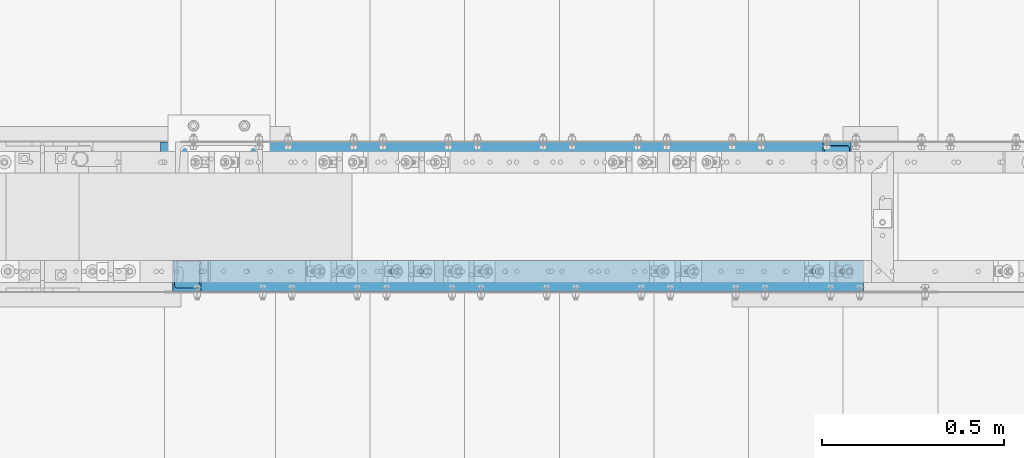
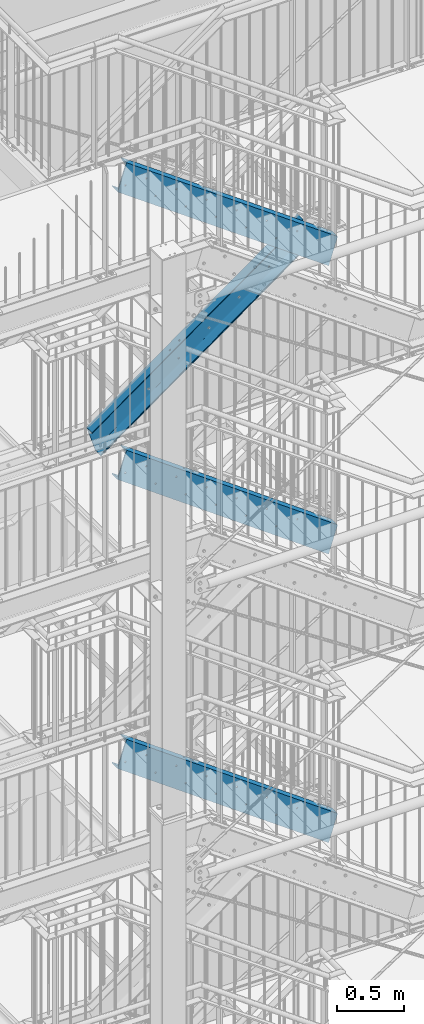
# One storey, part 120 of 825: 4 members, 62 openings.
"""IFC2X3 building model written with IfcOpenShell, lengths in millimetres."""

from ifc_helpers import new_model, entity, si_unit, converted_unit, frame, frame_2d, origin, origin_with_axes, origin_2d_with_axis, place, context, project, spatial, circle, u_section, extrude, clip, halfspace, material, element, save


model = new_model("IFC2X3")

# Units and contexts
model_context = context("Model", 3, precision=1e-09, world=origin_with_axes())
ifc_project = project(units=[si_unit("LENGTHUNIT", "METRE", prefix="MILLI"), si_unit("AREAUNIT", "SQUARE_METRE"), si_unit("VOLUMEUNIT", "CUBIC_METRE"), converted_unit("PLANEANGLEUNIT", "DEGREE", entity("IfcPlaneAngleMeasure", 0.01745329), si_unit("PLANEANGLEUNIT", "RADIAN"), dimensions=[0, 0, 0, 0, 0, 0, 0])], contexts=[model_context])

# Site, building, storey
site_placement = place(None, origin_with_axes())
site = spatial("IfcSite", under=ifc_project, at=site_placement, Name="Cnopf'sche Kinderklinik", CompositionType="ELEMENT")
building_placement = place(site_placement, origin_with_axes())
building = spatial("IfcBuilding", under=site, at=building_placement, Name="Struktur 1", CompositionType="ELEMENT")
storey_placement = place(building_placement, origin_with_axes())
storey = spatial("IfcBuildingStorey", under=building, at=storey_placement, Name="Default Storey", CompositionType="ELEMENT", Elevation=0.0)

# Member, openings
ifc_material = material(Name="S235JR")
member_1_placement = place(None, frame((5040.349232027, 6124.436971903, 14964.808313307), z_axis=(-0.811618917, 0.0, -0.584187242), x_axis=(0.0, -1.0, 0.0)))
member_1 = element("IfcMember", 1, at=member_1_placement, inside=storey, material=ifc_material, Name="Stringer#2", ObjectType="Stringer#2", context=model_context, shape_type="Clipping", body=[
    clip(clip(extrude(u_section(Depth=240.0, FlangeWidth=85.0, WebThickness=9.5, FlangeThickness=13.0, FilletRadius=13.0, EdgeRadius=6.5, FlangeSlope=4.574, at=frame_2d((20.2, 0.0))), origin(), (0.0, 0.0, -1.0), 2762.119261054), halfspace(frame((6124.436971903, -12802.606591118, 1664.839205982), z_axis=(0.0, 0.306904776, 0.951740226), x_axis=(1.0, 0.0, 0.0)), True)), halfspace(frame((6124.436971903, -12147.607204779, 3696.053161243), z_axis=(0.0, -0.306904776, -0.951740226), x_axis=(-1.0, 0.0, 0.0)), True)),
])
opening_1_placement = place(member_1_placement, frame((-22.8, -50.239297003, -1752.072290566), z_axis=(1.0, 0.0, 0.0), x_axis=(0.0, -0.584187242, -0.811618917)))
element("IfcOpeningElement", 2, at=opening_1_placement, cuts=member_1, ObjectType="Opening", context=model_context, shape_type="SweptSolid", body=[
    extrude(circle(Radius=7.001, at=origin_2d_with_axis()), origin(), (0.0, 0.0, 1.0), 10.5),
])
opening_2_placement = place(member_1_placement, frame((-22.8, 54.914406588, -965.286109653), z_axis=(1.0, 0.0, 0.0), x_axis=(0.0, -0.584187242, -0.811618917)))
element("IfcOpeningElement", 3, at=opening_2_placement, cuts=member_1, ObjectType="Opening", context=model_context, shape_type="SweptSolid", body=[
    extrude(circle(Radius=7.001, at=origin_2d_with_axis()), origin(), (0.0, 0.0, 1.0), 10.5),
])
opening_3_placement = place(member_1_placement, frame((-22.8, 54.914406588, -1605.980885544), z_axis=(1.0, 0.0, 0.0), x_axis=(0.0, -0.584187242, -0.811618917)))
element("IfcOpeningElement", 4, at=opening_3_placement, cuts=member_1, ObjectType="Opening", context=model_context, shape_type="SweptSolid", body=[
    extrude(circle(Radius=7.001, at=origin_2d_with_axis()), origin(), (0.0, 0.0, 1.0), 10.5),
])
opening_4_placement = place(member_1_placement, frame((-22.8, -50.239297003, -1431.72490262), z_axis=(1.0, 0.0, 0.0), x_axis=(0.0, -0.584187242, -0.811618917)))
element("IfcOpeningElement", 5, at=opening_4_placement, cuts=member_1, ObjectType="Opening", context=model_context, shape_type="SweptSolid", body=[
    extrude(circle(Radius=7.001, at=origin_2d_with_axis()), origin(), (0.0, 0.0, 1.0), 10.5),
])
opening_5_placement = place(member_1_placement, frame((-22.8, -50.239297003, -2392.767066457), z_axis=(1.0, 0.0, 0.0), x_axis=(0.0, -0.584187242, -0.811618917)))
element("IfcOpeningElement", 6, at=opening_5_placement, cuts=member_1, ObjectType="Opening", context=model_context, shape_type="SweptSolid", body=[
    extrude(circle(Radius=7.001, at=origin_2d_with_axis()), origin(), (0.0, 0.0, 1.0), 10.5),
])
opening_6_placement = place(member_1_placement, frame((-22.8, 54.914406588, -1926.32827349), z_axis=(1.0, 0.0, 0.0), x_axis=(0.0, -0.584187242, -0.811618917)))
element("IfcOpeningElement", 7, at=opening_6_placement, cuts=member_1, ObjectType="Opening", context=model_context, shape_type="SweptSolid", body=[
    extrude(circle(Radius=7.001, at=origin_2d_with_axis()), origin(), (0.0, 0.0, 1.0), 10.5),
])
opening_7_placement = place(member_1_placement, frame((-22.8, -50.239297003, -791.030126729), z_axis=(1.0, 0.0, 0.0), x_axis=(0.0, -0.584187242, -0.811618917)))
element("IfcOpeningElement", 8, at=opening_7_placement, cuts=member_1, ObjectType="Opening", context=model_context, shape_type="SweptSolid", body=[
    extrude(circle(Radius=7.001, at=origin_2d_with_axis()), origin(), (0.0, 0.0, 1.0), 10.5),
])
opening_8_placement = place(member_1_placement, frame((-22.8, -50.239297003, -1111.377514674), z_axis=(1.0, 0.0, 0.0), x_axis=(0.0, -0.584187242, -0.811618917)))
element("IfcOpeningElement", 9, at=opening_8_placement, cuts=member_1, ObjectType="Opening", context=model_context, shape_type="SweptSolid", body=[
    extrude(circle(Radius=7.001, at=origin_2d_with_axis()), origin(), (0.0, 0.0, 1.0), 10.5),
])
opening_9_placement = place(member_1_placement, frame((-22.8, -50.239297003, -2072.419678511), z_axis=(1.0, 0.0, 0.0), x_axis=(0.0, -0.584187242, -0.811618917)))
element("IfcOpeningElement", 10, at=opening_9_placement, cuts=member_1, ObjectType="Opening", context=model_context, shape_type="SweptSolid", body=[
    extrude(circle(Radius=7.001, at=origin_2d_with_axis()), origin(), (0.0, 0.0, 1.0), 10.5),
])
opening_10_placement = place(member_1_placement, frame((-22.8, 54.914406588, -644.938721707), z_axis=(1.0, 0.0, 0.0), x_axis=(0.0, -0.584187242, -0.811618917)))
element("IfcOpeningElement", 11, at=opening_10_placement, cuts=member_1, ObjectType="Opening", context=model_context, shape_type="SweptSolid", body=[
    extrude(circle(Radius=7.001, at=origin_2d_with_axis()), origin(), (0.0, 0.0, 1.0), 10.5),
])
opening_11_placement = place(member_1_placement, frame((-22.8, 54.914406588, -1285.633497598), z_axis=(1.0, 0.0, 0.0), x_axis=(0.0, -0.584187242, -0.811618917)))
element("IfcOpeningElement", 12, at=opening_11_placement, cuts=member_1, ObjectType="Opening", context=model_context, shape_type="SweptSolid", body=[
    extrude(circle(Radius=7.001, at=origin_2d_with_axis()), origin(), (0.0, 0.0, 1.0), 10.5),
])
opening_12_placement = place(member_1_placement, frame((-22.8, 54.914406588, -2246.675661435), z_axis=(1.0, 0.0, 0.0), x_axis=(0.0, -0.584187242, -0.811618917)))
element("IfcOpeningElement", 13, at=opening_12_placement, cuts=member_1, ObjectType="Opening", context=model_context, shape_type="SweptSolid", body=[
    extrude(circle(Radius=7.001, at=origin_2d_with_axis()), origin(), (0.0, 0.0, 1.0), 10.5),
])
opening_13_placement = place(member_1_placement, frame((32.7, 120.5, -1202.001427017), z_axis=(0.0, 1.0, 0.0), x_axis=(-1.0, 0.0, 0.0)))
element("IfcOpeningElement", 14, at=opening_13_placement, cuts=member_1, ObjectType="Opening", context=model_context, shape_type="SweptSolid", body=[
    extrude(circle(Radius=7.001, at=frame_2d((0.0, -7.001), x_axis=(1.0, 0.0))), origin(), (0.0, 0.0, -1.0), 14.0),
])
opening_14_placement = place(member_1_placement, frame((32.7, 120.5, -1102.001427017), z_axis=(0.0, 1.0, 0.0), x_axis=(-1.0, 0.0, 0.0)))
element("IfcOpeningElement", 15, at=opening_14_placement, cuts=member_1, ObjectType="Opening", context=model_context, shape_type="SweptSolid", body=[
    extrude(circle(Radius=7.001, at=frame_2d((0.0, -7.001), x_axis=(1.0, 0.0))), origin(), (0.0, 0.0, -1.0), 14.0),
])

member_2_placement = place(None, frame((7252.657044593, 5759.036971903, 11016.099256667), z_axis=(0.810878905, 0.0, -0.585213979), x_axis=(0.0, 1.0, 0.0)))
member_2 = element("IfcMember", 16, at=member_2_placement, inside=storey, material=ifc_material, Name="Stringer#2", ObjectType="Stringer#2", context=model_context, shape_type="Clipping", body=[
    clip(clip(extrude(u_section(Depth=240.0, FlangeWidth=85.0, WebThickness=9.5, FlangeThickness=13.0, FilletRadius=13.0, EdgeRadius=6.5, FlangeSlope=4.574, at=frame_2d((20.2, 0.0))), origin(), (0.0, 0.0, -1.0), 2764.271886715), halfspace(frame((-5759.036971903, -12161.289703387, 3708.993877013), z_axis=(0.0, -0.307506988, -0.951545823), x_axis=(-1.0, 0.0, 0.0)), True)), halfspace(frame((-5759.036971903, -12818.039088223, 1676.756695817), z_axis=(0.0, 0.307506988, 0.951545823), x_axis=(1.0, 0.0, 0.0)), True)),
])
opening_15_placement = place(member_2_placement, frame((-22.8, -50.419345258, -2073.598813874), z_axis=(1.0, 0.0, 0.0), x_axis=(0.0, -0.585213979, -0.810878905)))
element("IfcOpeningElement", 17, at=opening_15_placement, cuts=member_2, ObjectType="Opening", context=model_context, shape_type="SweptSolid", body=[
    extrude(circle(Radius=7.001, at=origin_2d_with_axis()), origin(), (0.0, 0.0, 1.0), 10.5),
])
opening_16_placement = place(member_2_placement, frame((-22.8, 54.919170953, -645.081657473), z_axis=(1.0, 0.0, 0.0), x_axis=(0.0, -0.585213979, -0.810878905)))
element("IfcOpeningElement", 18, at=opening_16_placement, cuts=member_2, ObjectType="Opening", context=model_context, shape_type="SweptSolid", body=[
    extrude(circle(Radius=7.001, at=origin_2d_with_axis()), origin(), (0.0, 0.0, 1.0), 10.5),
])
opening_17_placement = place(member_2_placement, frame((-22.8, 54.919170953, -1286.361134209), z_axis=(1.0, 0.0, 0.0), x_axis=(0.0, -0.585213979, -0.810878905)))
element("IfcOpeningElement", 19, at=opening_17_placement, cuts=member_2, ObjectType="Opening", context=model_context, shape_type="SweptSolid", body=[
    extrude(circle(Radius=7.001, at=origin_2d_with_axis()), origin(), (0.0, 0.0, 1.0), 10.5),
])
opening_18_placement = place(member_2_placement, frame((-22.8, 54.919170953, -965.721395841), z_axis=(1.0, 0.0, 0.0), x_axis=(0.0, -0.585213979, -0.810878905)))
element("IfcOpeningElement", 20, at=opening_18_placement, cuts=member_2, ObjectType="Opening", context=model_context, shape_type="SweptSolid", body=[
    extrude(circle(Radius=7.001, at=origin_2d_with_axis()), origin(), (0.0, 0.0, 1.0), 10.5),
])
opening_19_placement = place(member_2_placement, frame((-22.8, -50.419345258, -1752.959075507), z_axis=(1.0, 0.0, 0.0), x_axis=(0.0, -0.585213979, -0.810878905)))
element("IfcOpeningElement", 21, at=opening_19_placement, cuts=member_2, ObjectType="Opening", context=model_context, shape_type="SweptSolid", body=[
    extrude(circle(Radius=7.001, at=origin_2d_with_axis()), origin(), (0.0, 0.0, 1.0), 10.5),
])
opening_20_placement = place(member_2_placement, frame((-22.8, 54.919170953, -1927.640610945), z_axis=(1.0, 0.0, 0.0), x_axis=(0.0, -0.585213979, -0.810878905)))
element("IfcOpeningElement", 22, at=opening_20_placement, cuts=member_2, ObjectType="Opening", context=model_context, shape_type="SweptSolid", body=[
    extrude(circle(Radius=7.001, at=origin_2d_with_axis()), origin(), (0.0, 0.0, 1.0), 10.5),
])
opening_21_placement = place(member_2_placement, frame((-22.8, -50.419345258, -1111.679598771), z_axis=(1.0, 0.0, 0.0), x_axis=(0.0, -0.585213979, -0.810878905)))
element("IfcOpeningElement", 23, at=opening_21_placement, cuts=member_2, ObjectType="Opening", context=model_context, shape_type="SweptSolid", body=[
    extrude(circle(Radius=7.001, at=origin_2d_with_axis()), origin(), (0.0, 0.0, 1.0), 10.5),
])
opening_22_placement = place(member_2_placement, frame((-22.8, -50.419345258, -791.039860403), z_axis=(1.0, 0.0, 0.0), x_axis=(0.0, -0.585213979, -0.810878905)))
element("IfcOpeningElement", 24, at=opening_22_placement, cuts=member_2, ObjectType="Opening", context=model_context, shape_type="SweptSolid", body=[
    extrude(circle(Radius=7.001, at=origin_2d_with_axis()), origin(), (0.0, 0.0, 1.0), 10.5),
])
opening_23_placement = place(member_2_placement, frame((-22.8, 54.919170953, -2248.280349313), z_axis=(1.0, 0.0, 0.0), x_axis=(0.0, -0.585213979, -0.810878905)))
element("IfcOpeningElement", 25, at=opening_23_placement, cuts=member_2, ObjectType="Opening", context=model_context, shape_type="SweptSolid", body=[
    extrude(circle(Radius=7.001, at=origin_2d_with_axis()), origin(), (0.0, 0.0, 1.0), 10.5),
])
opening_24_placement = place(member_2_placement, frame((-22.8, 54.919170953, -1607.000872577), z_axis=(1.0, 0.0, 0.0), x_axis=(0.0, -0.585213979, -0.810878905)))
element("IfcOpeningElement", 26, at=opening_24_placement, cuts=member_2, ObjectType="Opening", context=model_context, shape_type="SweptSolid", body=[
    extrude(circle(Radius=7.001, at=origin_2d_with_axis()), origin(), (0.0, 0.0, 1.0), 10.5),
])
opening_25_placement = place(member_2_placement, frame((-22.8, -50.419345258, -1432.319337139), z_axis=(1.0, 0.0, 0.0), x_axis=(0.0, -0.585213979, -0.810878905)))
element("IfcOpeningElement", 27, at=opening_25_placement, cuts=member_2, ObjectType="Opening", context=model_context, shape_type="SweptSolid", body=[
    extrude(circle(Radius=7.001, at=origin_2d_with_axis()), origin(), (0.0, 0.0, 1.0), 10.5),
])
opening_26_placement = place(member_2_placement, frame((-22.8, -50.419345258, -2394.238552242), z_axis=(1.0, 0.0, 0.0), x_axis=(0.0, -0.585213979, -0.810878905)))
element("IfcOpeningElement", 28, at=opening_26_placement, cuts=member_2, ObjectType="Opening", context=model_context, shape_type="SweptSolid", body=[
    extrude(circle(Radius=7.001, at=origin_2d_with_axis()), origin(), (0.0, 0.0, 1.0), 10.5),
])
opening_27_placement = place(member_2_placement, frame((32.7, 120.5, -422.66807384), z_axis=(0.0, 1.0, 0.0), x_axis=(-1.0, 0.0, 0.0)))
element("IfcOpeningElement", 29, at=opening_27_placement, cuts=member_2, ObjectType="Opening", context=model_context, shape_type="SweptSolid", body=[
    extrude(circle(Radius=7.001, at=frame_2d((0.0, -7.001), x_axis=(1.0, 0.0))), origin(), (0.0, 0.0, -1.0), 14.0),
])
opening_28_placement = place(member_2_placement, frame((32.7, 120.5, -322.66807384), z_axis=(0.0, 1.0, 0.0), x_axis=(-1.0, 0.0, 0.0)))
element("IfcOpeningElement", 30, at=opening_28_placement, cuts=member_2, ObjectType="Opening", context=model_context, shape_type="SweptSolid", body=[
    extrude(circle(Radius=7.001, at=frame_2d((0.0, -7.001), x_axis=(1.0, 0.0))), origin(), (0.0, 0.0, -1.0), 14.0),
])
opening_29_placement = place(member_2_placement, frame((32.7, 120.5, -1850.132141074), z_axis=(0.0, 1.0, 0.0), x_axis=(-1.0, 0.0, 0.0)))
element("IfcOpeningElement", 31, at=opening_29_placement, cuts=member_2, ObjectType="Opening", context=model_context, shape_type="SweptSolid", body=[
    extrude(circle(Radius=7.001, at=frame_2d((0.0, -7.001), x_axis=(1.0, 0.0))), origin(), (0.0, 0.0, -1.0), 14.000000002),
])
opening_30_placement = place(member_2_placement, frame((32.7, 120.500000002, -1750.132141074), z_axis=(0.0, 1.0, 0.0), x_axis=(-1.0, 0.0, 0.0)))
element("IfcOpeningElement", 32, at=opening_30_placement, cuts=member_2, ObjectType="Opening", context=model_context, shape_type="SweptSolid", body=[
    extrude(circle(Radius=7.001, at=frame_2d((0.0, -7.001), x_axis=(1.0, 0.0))), origin(), (0.0, 0.0, -1.0), 14.000000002),
])

member_3_placement = place(None, frame((7252.177764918, 5759.036971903, 13646.861065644), z_axis=(0.810033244, 0.0, -0.586383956), x_axis=(0.0, 1.0, 0.0)))
member_3 = element("IfcMember", 33, at=member_3_placement, inside=storey, material=ifc_material, Name="Stringer#2", ObjectType="Stringer#2", context=model_context, shape_type="Clipping", body=[
    clip(clip(extrude(u_section(Depth=240.0, FlangeWidth=85.0, WebThickness=9.5, FlangeThickness=13.0, FilletRadius=13.0, EdgeRadius=6.5, FlangeSlope=4.574, at=frame_2d((20.2, 0.0))), origin(), (0.0, 0.0, -1.0), 2766.736495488), halfspace(frame((-5759.036971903, -14541.73622123, 4489.902696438), z_axis=(0.0, -0.308193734, -0.951323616), x_axis=(-1.0, 0.0, 0.0)), True)), halfspace(frame((-5759.036971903, -15200.485604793, 2456.493916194), z_axis=(0.0, 0.308193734, 0.951323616), x_axis=(1.0, 0.0, 0.0)), True)),
])
opening_31_placement = place(member_3_placement, frame((-22.8, -50.624378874, -2395.925170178), z_axis=(1.0, 0.0, 0.0), x_axis=(0.0, -0.586383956, -0.810033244)))
element("IfcOpeningElement", 34, at=opening_31_placement, cuts=member_3, ObjectType="Opening", context=model_context, shape_type="SweptSolid", body=[
    extrude(circle(Radius=7.001, at=origin_2d_with_axis()), origin(), (0.0, 0.0, 1.0), 10.5),
])
opening_32_placement = place(member_3_placement, frame((-22.8, -50.624378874, -1433.001727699), z_axis=(1.0, 0.0, 0.0), x_axis=(0.0, -0.586383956, -0.810033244)))
element("IfcOpeningElement", 35, at=opening_32_placement, cuts=member_3, ObjectType="Opening", context=model_context, shape_type="SweptSolid", body=[
    extrude(circle(Radius=7.001, at=origin_2d_with_axis()), origin(), (0.0, 0.0, 1.0), 10.5),
])
opening_33_placement = place(member_3_placement, frame((-22.8, -50.624378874, -2074.950689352), z_axis=(1.0, 0.0, 0.0), x_axis=(0.0, -0.586383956, -0.810033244)))
element("IfcOpeningElement", 36, at=opening_33_placement, cuts=member_3, ObjectType="Opening", context=model_context, shape_type="SweptSolid", body=[
    extrude(circle(Radius=7.001, at=origin_2d_with_axis()), origin(), (0.0, 0.0, 1.0), 10.5),
])
opening_34_placement = place(member_3_placement, frame((-22.8, 54.924733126, -1608.170224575), z_axis=(1.0, 0.0, 0.0), x_axis=(0.0, -0.586383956, -0.810033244)))
element("IfcOpeningElement", 37, at=opening_34_placement, cuts=member_3, ObjectType="Opening", context=model_context, shape_type="SweptSolid", body=[
    extrude(circle(Radius=7.001, at=origin_2d_with_axis()), origin(), (0.0, 0.0, 1.0), 10.5),
])
opening_35_placement = place(member_3_placement, frame((-22.8, 54.924733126, -1929.144705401), z_axis=(1.0, 0.0, 0.0), x_axis=(0.0, -0.586383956, -0.810033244)))
element("IfcOpeningElement", 38, at=opening_35_placement, cuts=member_3, ObjectType="Opening", context=model_context, shape_type="SweptSolid", body=[
    extrude(circle(Radius=7.001, at=origin_2d_with_axis()), origin(), (0.0, 0.0, 1.0), 10.5),
])
opening_36_placement = place(member_3_placement, frame((-22.8, -50.624378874, -1753.976208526), z_axis=(1.0, 0.0, 0.0), x_axis=(0.0, -0.586383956, -0.810033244)))
element("IfcOpeningElement", 39, at=opening_36_placement, cuts=member_3, ObjectType="Opening", context=model_context, shape_type="SweptSolid", body=[
    extrude(circle(Radius=7.001, at=origin_2d_with_axis()), origin(), (0.0, 0.0, 1.0), 10.5),
])
opening_37_placement = place(member_3_placement, frame((-22.8, 54.924733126, -966.221262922), z_axis=(1.0, 0.0, 0.0), x_axis=(0.0, -0.586383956, -0.810033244)))
element("IfcOpeningElement", 40, at=opening_37_placement, cuts=member_3, ObjectType="Opening", context=model_context, shape_type="SweptSolid", body=[
    extrude(circle(Radius=7.001, at=origin_2d_with_axis()), origin(), (0.0, 0.0, 1.0), 10.5),
])
opening_38_placement = place(member_3_placement, frame((-22.8, 54.924733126, -1287.195743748), z_axis=(1.0, 0.0, 0.0), x_axis=(0.0, -0.586383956, -0.810033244)))
element("IfcOpeningElement", 41, at=opening_38_placement, cuts=member_3, ObjectType="Opening", context=model_context, shape_type="SweptSolid", body=[
    extrude(circle(Radius=7.001, at=origin_2d_with_axis()), origin(), (0.0, 0.0, 1.0), 10.5),
])
opening_39_placement = place(member_3_placement, frame((-22.8, 54.924733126, -2250.119186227), z_axis=(1.0, 0.0, 0.0), x_axis=(0.0, -0.586383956, -0.810033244)))
element("IfcOpeningElement", 42, at=opening_39_placement, cuts=member_3, ObjectType="Opening", context=model_context, shape_type="SweptSolid", body=[
    extrude(circle(Radius=7.001, at=origin_2d_with_axis()), origin(), (0.0, 0.0, 1.0), 10.5),
])
opening_40_placement = place(member_3_placement, frame((-22.8, -50.624378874, -791.052766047), z_axis=(1.0, 0.0, 0.0), x_axis=(0.0, -0.586383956, -0.810033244)))
element("IfcOpeningElement", 43, at=opening_40_placement, cuts=member_3, ObjectType="Opening", context=model_context, shape_type="SweptSolid", body=[
    extrude(circle(Radius=7.001, at=origin_2d_with_axis()), origin(), (0.0, 0.0, 1.0), 10.5),
])
opening_41_placement = place(member_3_placement, frame((-22.8, -50.624378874, -1112.027246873), z_axis=(1.0, 0.0, 0.0), x_axis=(0.0, -0.586383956, -0.810033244)))
element("IfcOpeningElement", 44, at=opening_41_placement, cuts=member_3, ObjectType="Opening", context=model_context, shape_type="SweptSolid", body=[
    extrude(circle(Radius=7.001, at=origin_2d_with_axis()), origin(), (0.0, 0.0, 1.0), 10.5),
])
opening_42_placement = place(member_3_placement, frame((-22.8, 54.924733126, -645.246782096), z_axis=(1.0, 0.0, 0.0), x_axis=(0.0, -0.586383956, -0.810033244)))
element("IfcOpeningElement", 45, at=opening_42_placement, cuts=member_3, ObjectType="Opening", context=model_context, shape_type="SweptSolid", body=[
    extrude(circle(Radius=7.001, at=origin_2d_with_axis()), origin(), (0.0, 0.0, 1.0), 10.5),
])
opening_43_placement = place(member_3_placement, frame((32.7, 120.5, -422.640681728), z_axis=(0.0, 1.0, 0.0), x_axis=(-1.0, 0.0, 0.0)))
element("IfcOpeningElement", 46, at=opening_43_placement, cuts=member_3, ObjectType="Opening", context=model_context, shape_type="SweptSolid", body=[
    extrude(circle(Radius=7.001, at=frame_2d((0.0, -7.001), x_axis=(1.0, 0.0))), origin(), (0.0, 0.0, -1.0), 14.0),
])
opening_44_placement = place(member_3_placement, frame((32.7, 120.5, -322.640681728), z_axis=(0.0, 1.0, 0.0), x_axis=(-1.0, 0.0, 0.0)))
element("IfcOpeningElement", 47, at=opening_44_placement, cuts=member_3, ObjectType="Opening", context=model_context, shape_type="SweptSolid", body=[
    extrude(circle(Radius=7.001, at=frame_2d((0.0, -7.001), x_axis=(1.0, 0.0))), origin(), (0.0, 0.0, -1.0), 14.0),
])
opening_45_placement = place(member_3_placement, frame((32.7, 120.5, -1851.59499728), z_axis=(0.0, 1.0, 0.0), x_axis=(-1.0, 0.0, 0.0)))
element("IfcOpeningElement", 48, at=opening_45_placement, cuts=member_3, ObjectType="Opening", context=model_context, shape_type="SweptSolid", body=[
    extrude(circle(Radius=7.001, at=frame_2d((0.0, -7.001), x_axis=(1.0, 0.0))), origin(), (0.0, 0.0, -1.0), 14.0),
])
opening_46_placement = place(member_3_placement, frame((32.7, 120.5, -1751.59499728), z_axis=(0.0, 1.0, 0.0), x_axis=(-1.0, 0.0, 0.0)))
element("IfcOpeningElement", 49, at=opening_46_placement, cuts=member_3, ObjectType="Opening", context=model_context, shape_type="SweptSolid", body=[
    extrude(circle(Radius=7.001, at=frame_2d((0.0, -7.001), x_axis=(1.0, 0.0))), origin(), (0.0, 0.0, -1.0), 14.0),
])

member_4_placement = place(None, frame((7253.077573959, 5759.036971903, 16274.808313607), z_axis=(0.811618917, 0.0, -0.584187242), x_axis=(0.0, 1.0, 0.0)))
member_4 = element("IfcMember", 50, at=member_4_placement, inside=storey, material=ifc_material, Name="Stringer#2", ObjectType="Stringer#2", context=model_context, shape_type="Clipping", body=[
    clip(clip(extrude(u_section(Depth=240.0, FlangeWidth=85.0, WebThickness=9.5, FlangeThickness=13.0, FilletRadius=13.0, EdgeRadius=6.5, FlangeSlope=4.574, at=frame_2d((20.2, 0.0))), origin(), (0.0, 0.0, -1.0), 2762.119260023), halfspace(frame((-5759.036971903, -16925.049146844, 5236.620334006), z_axis=(0.0, -0.306904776, -0.951740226), x_axis=(-1.0, 0.0, 0.0)), True)), halfspace(frame((-5759.036971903, -17580.048532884, 3205.40637968), z_axis=(0.0, 0.306904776, 0.951740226), x_axis=(1.0, 0.0, 0.0)), True)),
])
opening_47_placement = place(member_4_placement, frame((-22.8, 54.914406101, -1285.633497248), z_axis=(1.0, 0.0, 0.0), x_axis=(0.0, -0.584187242, -0.811618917)))
element("IfcOpeningElement", 51, at=opening_47_placement, cuts=member_4, ObjectType="Opening", context=model_context, shape_type="SweptSolid", body=[
    extrude(circle(Radius=7.001, at=origin_2d_with_axis()), origin(), (0.0, 0.0, 1.0), 10.5),
])
opening_48_placement = place(member_4_placement, frame((-22.8, 54.914406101, -965.286109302), z_axis=(1.0, 0.0, 0.0), x_axis=(0.0, -0.584187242, -0.811618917)))
element("IfcOpeningElement", 52, at=opening_48_placement, cuts=member_4, ObjectType="Opening", context=model_context, shape_type="SweptSolid", body=[
    extrude(circle(Radius=7.001, at=origin_2d_with_axis()), origin(), (0.0, 0.0, 1.0), 10.5),
])
opening_49_placement = place(member_4_placement, frame((-22.8, -50.23929749, -1431.72490227), z_axis=(1.0, 0.0, 0.0), x_axis=(0.0, -0.584187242, -0.811618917)))
element("IfcOpeningElement", 53, at=opening_49_placement, cuts=member_4, ObjectType="Opening", context=model_context, shape_type="SweptSolid", body=[
    extrude(circle(Radius=7.001, at=origin_2d_with_axis()), origin(), (0.0, 0.0, 1.0), 10.5),
])
opening_50_placement = place(member_4_placement, frame((-22.8, 54.914406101, -2246.675661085), z_axis=(1.0, 0.0, 0.0), x_axis=(0.0, -0.584187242, -0.811618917)))
element("IfcOpeningElement", 54, at=opening_50_placement, cuts=member_4, ObjectType="Opening", context=model_context, shape_type="SweptSolid", body=[
    extrude(circle(Radius=7.001, at=origin_2d_with_axis()), origin(), (0.0, 0.0, 1.0), 10.5),
])
opening_51_placement = place(member_4_placement, frame((-22.8, -50.23929749, -2072.419678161), z_axis=(1.0, 0.0, 0.0), x_axis=(0.0, -0.584187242, -0.811618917)))
element("IfcOpeningElement", 55, at=opening_51_placement, cuts=member_4, ObjectType="Opening", context=model_context, shape_type="SweptSolid", body=[
    extrude(circle(Radius=7.001, at=origin_2d_with_axis()), origin(), (0.0, 0.0, 1.0), 10.5),
])
opening_52_placement = place(member_4_placement, frame((-22.8, 54.914406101, -1605.980885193), z_axis=(1.0, 0.0, 0.0), x_axis=(0.0, -0.584187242, -0.811618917)))
element("IfcOpeningElement", 56, at=opening_52_placement, cuts=member_4, ObjectType="Opening", context=model_context, shape_type="SweptSolid", body=[
    extrude(circle(Radius=7.001, at=origin_2d_with_axis()), origin(), (0.0, 0.0, 1.0), 10.5),
])
opening_53_placement = place(member_4_placement, frame((-22.8, -50.23929749, -791.030126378), z_axis=(1.0, 0.0, 0.0), x_axis=(0.0, -0.584187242, -0.811618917)))
element("IfcOpeningElement", 57, at=opening_53_placement, cuts=member_4, ObjectType="Opening", context=model_context, shape_type="SweptSolid", body=[
    extrude(circle(Radius=7.001, at=origin_2d_with_axis()), origin(), (0.0, 0.0, 1.0), 10.5),
])
opening_54_placement = place(member_4_placement, frame((-22.8, -50.23929749, -1111.377514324), z_axis=(1.0, 0.0, 0.0), x_axis=(0.0, -0.584187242, -0.811618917)))
element("IfcOpeningElement", 58, at=opening_54_placement, cuts=member_4, ObjectType="Opening", context=model_context, shape_type="SweptSolid", body=[
    extrude(circle(Radius=7.001, at=origin_2d_with_axis()), origin(), (0.0, 0.0, 1.0), 10.5),
])
opening_55_placement = place(member_4_placement, frame((-22.8, -50.23929749, -2392.767066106), z_axis=(1.0, 0.0, 0.0), x_axis=(0.0, -0.584187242, -0.811618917)))
element("IfcOpeningElement", 59, at=opening_55_placement, cuts=member_4, ObjectType="Opening", context=model_context, shape_type="SweptSolid", body=[
    extrude(circle(Radius=7.001, at=origin_2d_with_axis()), origin(), (0.0, 0.0, 1.0), 10.5),
])
opening_56_placement = place(member_4_placement, frame((-22.8, 54.914406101, -644.938721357), z_axis=(1.0, 0.0, 0.0), x_axis=(0.0, -0.584187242, -0.811618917)))
element("IfcOpeningElement", 60, at=opening_56_placement, cuts=member_4, ObjectType="Opening", context=model_context, shape_type="SweptSolid", body=[
    extrude(circle(Radius=7.001, at=origin_2d_with_axis()), origin(), (0.0, 0.0, 1.0), 10.5),
])
opening_57_placement = place(member_4_placement, frame((-22.8, 54.914406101, -1926.328273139), z_axis=(1.0, 0.0, 0.0), x_axis=(0.0, -0.584187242, -0.811618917)))
element("IfcOpeningElement", 61, at=opening_57_placement, cuts=member_4, ObjectType="Opening", context=model_context, shape_type="SweptSolid", body=[
    extrude(circle(Radius=7.001, at=origin_2d_with_axis()), origin(), (0.0, 0.0, 1.0), 10.5),
])
opening_58_placement = place(member_4_placement, frame((-22.8, -50.23929749, -1752.072290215), z_axis=(1.0, 0.0, 0.0), x_axis=(0.0, -0.584187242, -0.811618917)))
element("IfcOpeningElement", 62, at=opening_58_placement, cuts=member_4, ObjectType="Opening", context=model_context, shape_type="SweptSolid", body=[
    extrude(circle(Radius=7.001, at=origin_2d_with_axis()), origin(), (0.0, 0.0, 1.0), 10.5),
])
opening_59_placement = place(member_4_placement, frame((32.7, 120.5, -422.692952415), z_axis=(0.0, 1.0, 0.0), x_axis=(-1.0, 0.0, 0.0)))
element("IfcOpeningElement", 63, at=opening_59_placement, cuts=member_4, ObjectType="Opening", context=model_context, shape_type="SweptSolid", body=[
    extrude(circle(Radius=7.001, at=frame_2d((0.0, -7.001), x_axis=(1.0, 0.0))), origin(), (0.0, 0.0, -1.0), 14.0),
])
opening_60_placement = place(member_4_placement, frame((32.7, 120.5, -322.692952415), z_axis=(0.0, 1.0, 0.0), x_axis=(-1.0, 0.0, 0.0)))
element("IfcOpeningElement", 64, at=opening_60_placement, cuts=member_4, ObjectType="Opening", context=model_context, shape_type="SweptSolid", body=[
    extrude(circle(Radius=7.001, at=frame_2d((0.0, -7.001), x_axis=(1.0, 0.0))), origin(), (0.0, 0.0, -1.0), 14.0),
])
opening_61_placement = place(member_4_placement, frame((32.7, 120.5, -1644.017676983), z_axis=(0.0, 1.0, 0.0), x_axis=(-1.0, 0.0, 0.0)))
element("IfcOpeningElement", 65, at=opening_61_placement, cuts=member_4, ObjectType="Opening", context=model_context, shape_type="SweptSolid", body=[
    extrude(circle(Radius=7.001, at=frame_2d((0.0, -7.001), x_axis=(1.0, 0.0))), origin(), (0.0, 0.0, -1.0), 14.0),
])
opening_62_placement = place(member_4_placement, frame((32.7, 120.5, -1544.017676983), z_axis=(0.0, 1.0, 0.0), x_axis=(-1.0, 0.0, 0.0)))
element("IfcOpeningElement", 66, at=opening_62_placement, cuts=member_4, ObjectType="Opening", context=model_context, shape_type="SweptSolid", body=[
    extrude(circle(Radius=7.001, at=frame_2d((0.0, -7.001), x_axis=(1.0, 0.0))), origin(), (0.0, 0.0, -1.0), 14.0),
])

save(model, "model.ifc")
